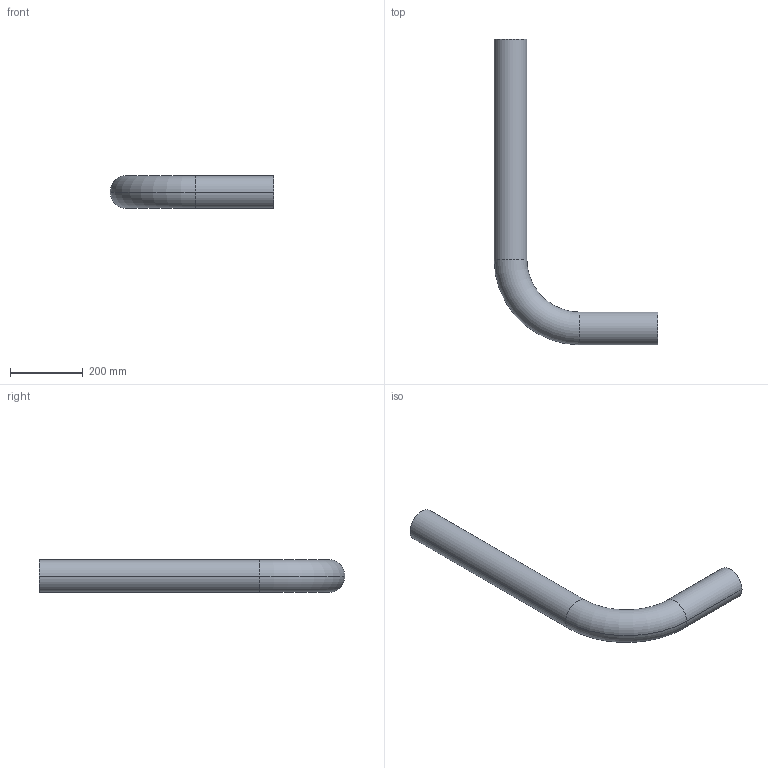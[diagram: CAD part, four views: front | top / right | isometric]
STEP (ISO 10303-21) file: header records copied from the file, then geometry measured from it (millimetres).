
FILE_DESCRIPTION (( 'STEP AP203' ), '1' );
FILE_NAME ('KP_3-90FL.step', '2011-08-08T11:40:21', ( '' ), ( '' ), 'SwSTEP 2.0', 'SolidWorks 2011', '' );
FILE_SCHEMA (( 'CONFIG_CONTROL_DESIGN' ));
Length unit declared in the file: millimetre
Products named in the file (1): KP_3-90FL
Bounding box: 450 x 840 x 90 mm (x, y, z)
Volume: 2561500.7 mm3; surface area: 573802.8 mm2
Topology: 1 solids, 1 shells, 14 faces, 28 edges, 16 vertices
Faces by surface type: cylinder 8, torus 4, plane 2
Entity records: 449 total; most frequent: DIRECTION 78, CARTESIAN_POINT 59, ORIENTED_EDGE 56, AXIS2_PLACEMENT_3D 35, EDGE_CURVE 28, CIRCLE 20, VERTEX_POINT 16, EDGE_LOOP 16
